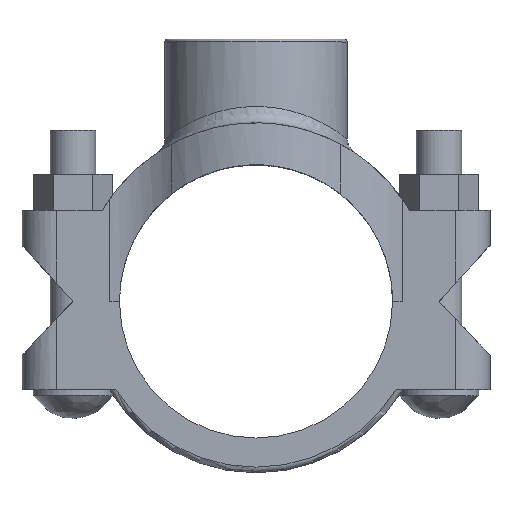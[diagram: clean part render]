
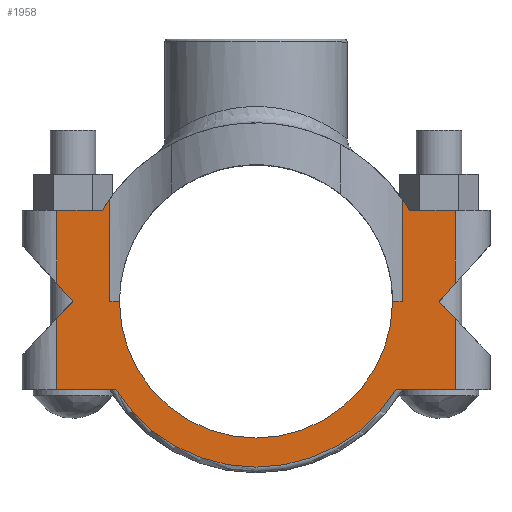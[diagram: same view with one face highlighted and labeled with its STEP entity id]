
A CAD part, top view. The second image highlights one B-rep face of the part: STEP entity #1958.
In plain terms, the highlighted planar face has unit normal (0, 0, 1).
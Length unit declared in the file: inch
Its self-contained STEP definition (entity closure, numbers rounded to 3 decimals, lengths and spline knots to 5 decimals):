
#109=PLANE('',#2148);
#166=LINE('',#3078,#318);
#172=LINE('',#3260,#324);
#215=LINE('',#3465,#367);
#228=LINE('',#3502,#380);
#235=LINE('',#3618,#387);
#239=LINE('',#3631,#391);
#244=LINE('',#3642,#396);
#245=LINE('',#3644,#397);
#254=LINE('',#3668,#406);
#255=LINE('',#3672,#407);
#256=LINE('',#3675,#408);
#257=LINE('',#3676,#409);
#258=LINE('',#3678,#410);
#259=LINE('',#3679,#411);
#260=LINE('',#3681,#412);
#261=LINE('',#3682,#413);
#318=VECTOR('',#2317,0.3937);
#324=VECTOR('',#2361,0.3937);
#367=VECTOR('',#2504,0.3937);
#380=VECTOR('',#2541,0.3937);
#387=VECTOR('',#2556,0.3937);
#391=VECTOR('',#2568,0.3937);
#396=VECTOR('',#2581,0.3937);
#397=VECTOR('',#2584,0.3937);
#406=VECTOR('',#2611,0.3937);
#407=VECTOR('',#2616,0.3937);
#408=VECTOR('',#2619,0.3937);
#409=VECTOR('',#2620,0.3937);
#410=VECTOR('',#2621,0.3937);
#411=VECTOR('',#2622,0.3937);
#412=VECTOR('',#2623,0.3937);
#413=VECTOR('',#2624,0.3937);
#502=FACE_OUTER_BOUND('',#606,.T.);
#606=EDGE_LOOP('',(#1590,#1591,#1592,#1593,#1594,#1595,#1596,#1597,#1598,
#1599,#1600,#1601,#1602,#1603,#1604,#1605,#1606,#1607,#1608,#1609));
#638=CIRCLE('',#2010,1.96);
#639=CIRCLE('',#2011,1.96);
#694=CIRCLE('',#2126,1.5);
#702=CIRCLE('',#2149,1.82);
#755=VERTEX_POINT('',#2876);
#756=VERTEX_POINT('',#2878);
#759=VERTEX_POINT('',#2912);
#760=VERTEX_POINT('',#2925);
#798=VERTEX_POINT('',#3077);
#811=VERTEX_POINT('',#3258);
#861=VERTEX_POINT('',#3462);
#862=VERTEX_POINT('',#3464);
#873=VERTEX_POINT('',#3499);
#874=VERTEX_POINT('',#3501);
#877=VERTEX_POINT('',#3508);
#882=VERTEX_POINT('',#3561);
#887=VERTEX_POINT('',#3617);
#892=VERTEX_POINT('',#3629);
#894=VERTEX_POINT('',#3640);
#900=VERTEX_POINT('',#3667);
#901=VERTEX_POINT('',#3671);
#902=VERTEX_POINT('',#3673);
#903=VERTEX_POINT('',#3677);
#904=VERTEX_POINT('',#3680);
#942=EDGE_CURVE('',#756,#755,#638,.T.);
#946=EDGE_CURVE('',#760,#759,#639,.T.);
#996=EDGE_CURVE('',#798,#760,#166,.T.);
#1017=EDGE_CURVE('',#755,#811,#172,.T.);
#1089=EDGE_CURVE('',#862,#861,#215,.T.);
#1108=EDGE_CURVE('',#874,#873,#228,.T.);
#1117=EDGE_CURVE('',#877,#882,#694,.T.);
#1123=EDGE_CURVE('',#887,#874,#235,.T.);
#1130=EDGE_CURVE('',#861,#892,#239,.T.);
#1136=EDGE_CURVE('',#894,#759,#244,.T.);
#1137=EDGE_CURVE('',#877,#894,#245,.T.);
#1149=EDGE_CURVE('',#887,#900,#254,.T.);
#1151=EDGE_CURVE('',#901,#892,#255,.T.);
#1152=EDGE_CURVE('',#901,#902,#702,.T.);
#1153=EDGE_CURVE('',#900,#902,#256,.T.);
#1154=EDGE_CURVE('',#873,#798,#257,.T.);
#1155=EDGE_CURVE('',#903,#882,#258,.T.);
#1156=EDGE_CURVE('',#903,#756,#259,.T.);
#1157=EDGE_CURVE('',#904,#811,#260,.T.);
#1158=EDGE_CURVE('',#904,#862,#261,.T.);
#1590=ORIENTED_EDGE('',*,*,#1089,.T.);
#1591=ORIENTED_EDGE('',*,*,#1130,.T.);
#1592=ORIENTED_EDGE('',*,*,#1151,.F.);
#1593=ORIENTED_EDGE('',*,*,#1152,.T.);
#1594=ORIENTED_EDGE('',*,*,#1153,.F.);
#1595=ORIENTED_EDGE('',*,*,#1149,.F.);
#1596=ORIENTED_EDGE('',*,*,#1123,.T.);
#1597=ORIENTED_EDGE('',*,*,#1108,.T.);
#1598=ORIENTED_EDGE('',*,*,#1154,.T.);
#1599=ORIENTED_EDGE('',*,*,#996,.T.);
#1600=ORIENTED_EDGE('',*,*,#946,.T.);
#1601=ORIENTED_EDGE('',*,*,#1136,.F.);
#1602=ORIENTED_EDGE('',*,*,#1137,.F.);
#1603=ORIENTED_EDGE('',*,*,#1117,.T.);
#1604=ORIENTED_EDGE('',*,*,#1155,.F.);
#1605=ORIENTED_EDGE('',*,*,#1156,.T.);
#1606=ORIENTED_EDGE('',*,*,#942,.T.);
#1607=ORIENTED_EDGE('',*,*,#1017,.T.);
#1608=ORIENTED_EDGE('',*,*,#1157,.F.);
#1609=ORIENTED_EDGE('',*,*,#1158,.T.);
#1958=ADVANCED_FACE('',(#502),#109,.T.);
#2010=AXIS2_PLACEMENT_3D('',#2879,#2219,#2220);
#2011=AXIS2_PLACEMENT_3D('',#2926,#2221,#2222);
#2126=AXIS2_PLACEMENT_3D('',#3563,#2549,#2550);
#2148=AXIS2_PLACEMENT_3D('',#3670,#2614,#2615);
#2149=AXIS2_PLACEMENT_3D('',#3674,#2617,#2618);
#2219=DIRECTION('center_axis',(0.,0.,1.));
#2220=DIRECTION('ref_axis',(-0.86,-0.51,0.));
#2221=DIRECTION('center_axis',(0.,0.,1.));
#2222=DIRECTION('ref_axis',(-0.86,-0.51,0.));
#2317=DIRECTION('',(-1.,0.,0.));
#2361=DIRECTION('',(-1.,0.,0.));
#2504=DIRECTION('',(-0.688,-0.725,0.));
#2541=DIRECTION('',(0.67,0.742,0.));
#2549=DIRECTION('center_axis',(0.,0.,-1.));
#2550=DIRECTION('ref_axis',(-1.,0.,0.));
#2556=DIRECTION('',(-0.688,0.725,0.));
#2568=DIRECTION('',(0.,-1.,0.));
#2581=DIRECTION('',(0.,1.,0.));
#2584=DIRECTION('',(1.,0.,0.));
#2611=DIRECTION('',(0.,-1.,0.));
#2614=DIRECTION('center_axis',(0.,0.,1.));
#2615=DIRECTION('ref_axis',(1.,0.,0.));
#2616=DIRECTION('',(-1.,0.,0.));
#2617=DIRECTION('center_axis',(0.,0.,1.));
#2618=DIRECTION('ref_axis',(-1.,0.,0.));
#2619=DIRECTION('',(-1.,0.,0.));
#2620=DIRECTION('',(0.,1.,0.));
#2621=DIRECTION('',(1.,0.,0.));
#2622=DIRECTION('',(0.,1.,0.));
#2623=DIRECTION('',(0.,1.,0.));
#2624=DIRECTION('',(0.67,-0.742,0.));
#2876=CARTESIAN_POINT('',(-1.6857,1.,0.75));
#2878=CARTESIAN_POINT('',(-1.60565,1.12404,0.75));
#2879=CARTESIAN_POINT('Origin',(0.,0.,0.75));
#2912=CARTESIAN_POINT('',(1.60565,1.12404,0.75));
#2925=CARTESIAN_POINT('',(1.6857,1.,0.75));
#2926=CARTESIAN_POINT('Origin',(0.,0.,0.75));
#3077=CARTESIAN_POINT('',(2.19,1.,0.75));
#3078=CARTESIAN_POINT('',(1.64568,1.,0.75));
#3258=CARTESIAN_POINT('',(-2.19,1.,0.75));
#3260=CARTESIAN_POINT('',(-2.38,1.,0.75));
#3462=CARTESIAN_POINT('',(-2.19,-0.18964,0.75));
#3464=CARTESIAN_POINT('',(-2.01,0.,0.75));
#3465=CARTESIAN_POINT('',(-1.43322,0.60768,0.75));
#3499=CARTESIAN_POINT('',(2.19,0.19929,0.75));
#3501=CARTESIAN_POINT('',(2.01,0.,0.75));
#3502=CARTESIAN_POINT('',(2.19917,0.20943,0.75));
#3508=CARTESIAN_POINT('',(1.5,0.,0.75));
#3561=CARTESIAN_POINT('',(-1.5,0.,0.75));
#3563=CARTESIAN_POINT('Origin',(0.,0.,0.75));
#3617=CARTESIAN_POINT('',(2.19,-0.18964,0.75));
#3618=CARTESIAN_POINT('',(1.91418,0.10095,0.75));
#3629=CARTESIAN_POINT('',(-2.19,-0.97,0.75));
#3631=CARTESIAN_POINT('',(-2.19,0.,0.75));
#3640=CARTESIAN_POINT('',(1.60565,0.,0.75));
#3642=CARTESIAN_POINT('',(1.60565,0.,0.75));
#3644=CARTESIAN_POINT('',(1.095,0.,0.75));
#3667=CARTESIAN_POINT('',(2.19,-0.97,0.75));
#3668=CARTESIAN_POINT('',(2.19,0.,0.75));
#3670=CARTESIAN_POINT('Origin',(1.60565,0.,0.75));
#3671=CARTESIAN_POINT('',(-1.53997,-0.97,0.75));
#3672=CARTESIAN_POINT('',(-2.19,-0.97,0.75));
#3673=CARTESIAN_POINT('',(1.53997,-0.97,0.75));
#3674=CARTESIAN_POINT('Origin',(0.,0.,
0.75));
#3675=CARTESIAN_POINT('',(-2.19,-0.97,0.75));
#3676=CARTESIAN_POINT('',(2.19,0.,0.75));
#3677=CARTESIAN_POINT('',(-1.60565,0.,0.75));
#3678=CARTESIAN_POINT('',(1.095,0.,0.75));
#3679=CARTESIAN_POINT('',(-1.60565,0.,0.75));
#3680=CARTESIAN_POINT('',(-2.19,0.19929,0.75));
#3681=CARTESIAN_POINT('',(-2.19,0.,0.75));
#3682=CARTESIAN_POINT('',(-2.05044,0.04477,0.75));
